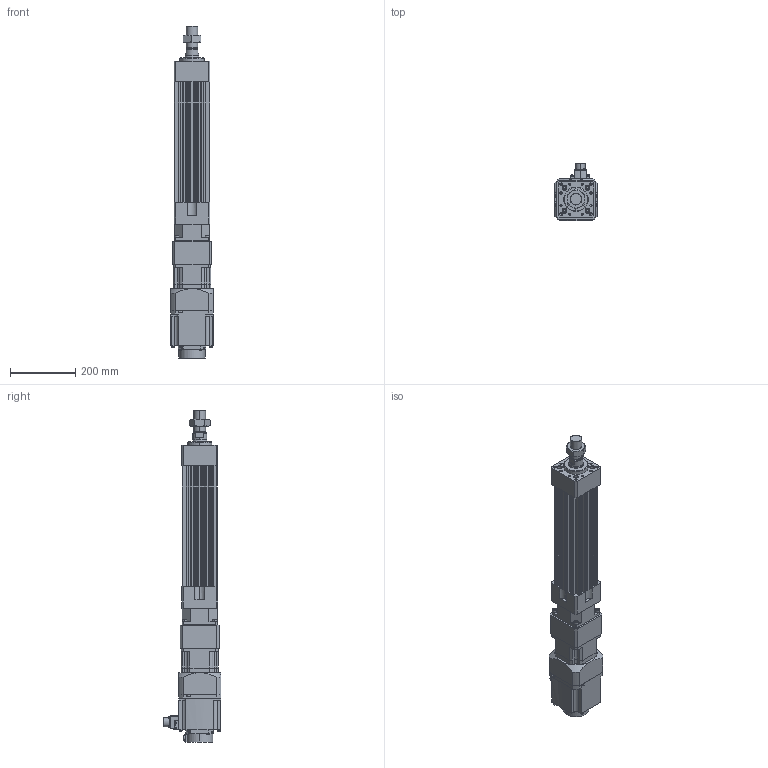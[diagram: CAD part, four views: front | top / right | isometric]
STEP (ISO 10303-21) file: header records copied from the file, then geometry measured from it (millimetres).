
FILE_DESCRIPTION (( 'STEP AP203' ), '1' );
FILE_NAME ('HES110NS(HS)-S200-W015G00-M.STEP', '2023-01-27T10:30:01', ( 'tms' ), ( '' ), 'SwSTEP 2.0', 'SolidWorks 2013', '' );
FILE_SCHEMA (( 'CONFIG_CONTROL_DESIGN' ));
Length unit declared in the file: millimetre
Products named in the file (8): HG-SR152; M36X1.5P; P0401400706; AB115-003[HG-SR152]; AB1151; HES110 ROD M ST200; HES110NS(HS)-S200-W015G00-M; HES110-S200-G120
Assembly tree (7 placements, depth 3):
  HES110NS(HS)-S200-W015G00-M
    HES110-S200-G120
    HES110 ROD M ST200
    M36X1.5P
    AB115-003[HG-SR152]
      AB1151
      P0401400706
    HG-SR152
Bounding box: 130 x 177.49 x 1021.5 mm (x, y, z)
Volume: 6531565.1 mm3; surface area: 881356.6 mm2
Topology: 4 solids, 15 shells, 1202 faces, 3026 edges, 1951 vertices
Faces by surface type: plane 551, cylinder 537, cone 102, bspline 8, torus 4
Entity records: 37654 total; most frequent: CARTESIAN_POINT 7134, DIRECTION 6533, ORIENTED_EDGE 5960, EDGE_CURVE 2990, AXIS2_PLACEMENT_3D 2410, VERTEX_POINT 1951, VECTOR 1713, LINE 1713
